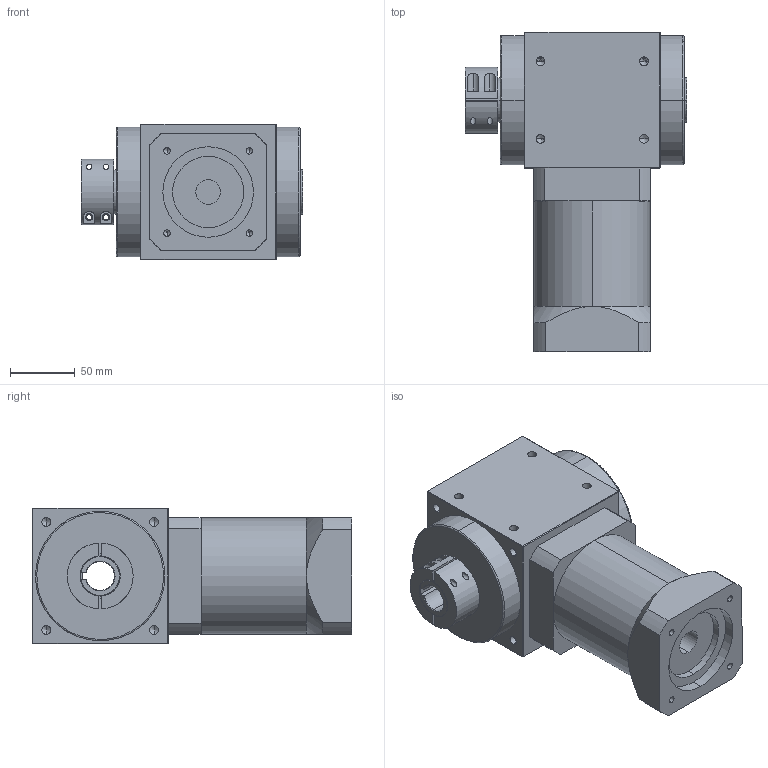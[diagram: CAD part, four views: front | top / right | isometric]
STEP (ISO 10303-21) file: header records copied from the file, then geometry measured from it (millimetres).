
FILE_DESCRIPTION (( 'STEP AP214' ), '1' );
FILE_NAME ('PAW105A-L2-C-K(12-100) 19-70-90-M6.STEP', '2021-04-24T08:07:26', ( 'Microsoft' ), ( 'Microsoft China' ), 'SwSTEP 2.0', 'SolidWorks 2016', '' );
FILE_SCHEMA (( 'AUTOMOTIVE_DESIGN' ));
Length unit declared in the file: millimetre
Products named in the file (3): PAW105A-L2-C-K(12-100) 19-70-90-M6; PAW105A-L1-2C-K--22-110-145-m8_1; 105標杶_1
Assembly tree (2 placements, depth 2):
  PAW105A-L2-C-K(12-100) 19-70-90-M6
    PAW105A-L1-2C-K--22-110-145-m8_1
    105標杶_1
Bounding box: 171 x 247 x 105 mm (x, y, z)
Volume: 2351657.7 mm3; surface area: 179000 mm2
Topology: 4 solids, 4 shells, 240 faces, 585 edges, 334 vertices
Faces by surface type: cylinder 107, plane 72, cone 57, bspline 4
Entity records: 9950 total; most frequent: CARTESIAN_POINT 1734, DIRECTION 1188, ORIENTED_EDGE 1074, EDGE_CURVE 537, AXIS2_PLACEMENT_3D 460, VERTEX_POINT 334, EDGE_LOOP 295, LINE 268
